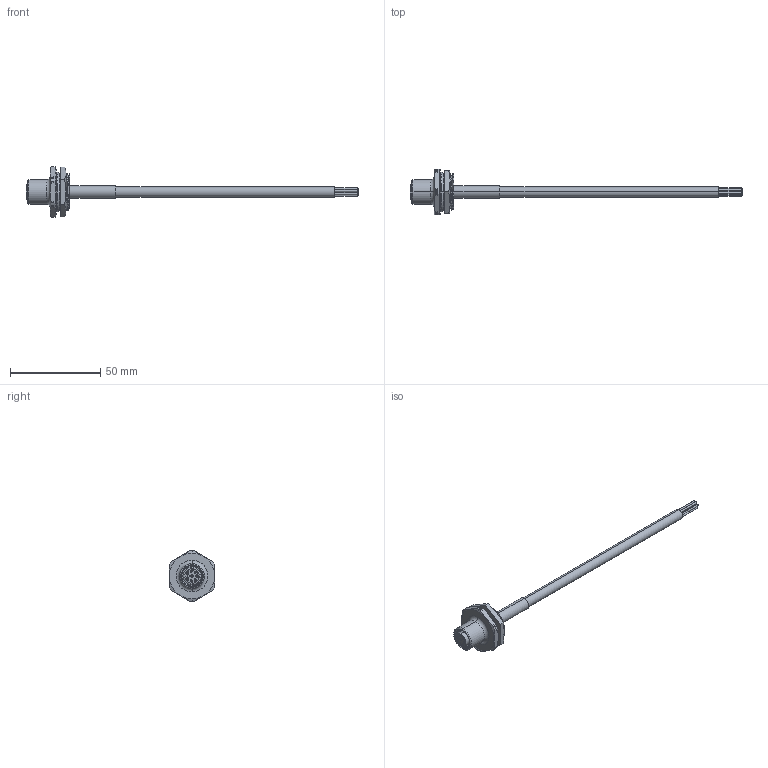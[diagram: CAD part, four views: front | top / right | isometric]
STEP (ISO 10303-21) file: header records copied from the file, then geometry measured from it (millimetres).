
FILE_DESCRIPTION (( 'STEP AP214' ), '1' );
FILE_NAME ('MDE45-8FR-M20-ZZ.STEP', '2012-10-12T12:02:02', ( 'Mencom User' ), ( 'Hewlett-Packard Company' ), 'SwSTEP 2.0', 'SolidWorks 2012', '' );
FILE_SCHEMA (( 'AUTOMOTIVE_DESIGN' ));
Length unit declared in the file: inch
Products named in the file (1): MDE45-8FR-M20-ZZ
Bounding box: 183.5 x 25.4 x 27.94 mm (x, y, z)
Volume: 10448.9 mm3; surface area: 8148.3 mm2
Topology: 4 solids, 4 shells, 348 faces, 848 edges, 558 vertices
Faces by surface type: cylinder 120, plane 119, bspline 67, cone 28, torus 14
Entity records: 21456 total; most frequent: CARTESIAN_POINT 9220, ORIENTED_EDGE 1696, DIRECTION 1438, EDGE_CURVE 848, VERTEX_POINT 558, AXIS2_PLACEMENT_3D 547, EDGE_LOOP 404, FACE_OUTER_BOUND 348
